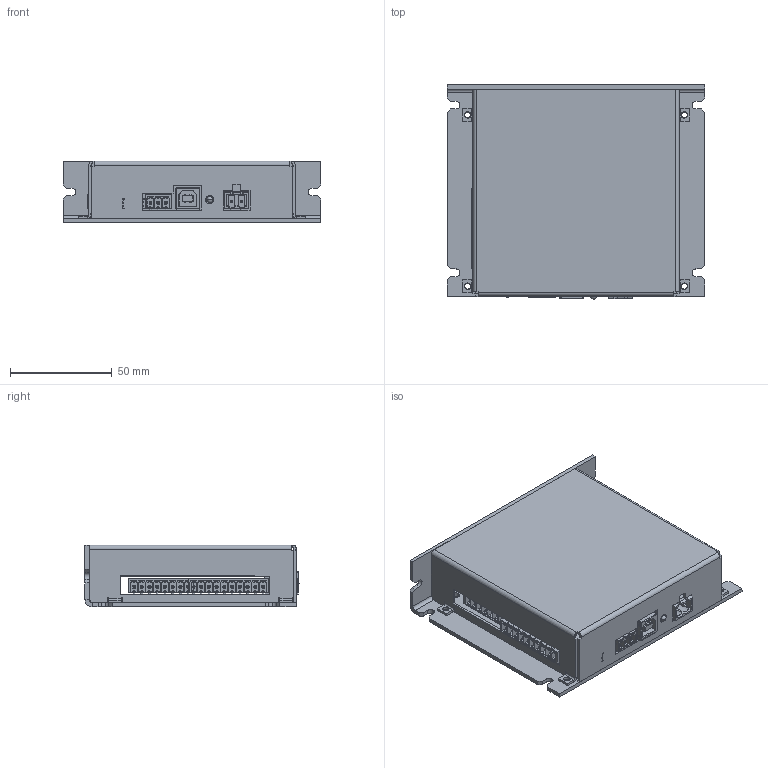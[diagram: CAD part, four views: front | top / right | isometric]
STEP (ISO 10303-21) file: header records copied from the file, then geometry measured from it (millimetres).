
FILE_DESCRIPTION (( 'STEP AP214' ), '1' );
FILE_NAME ('PMX-4CX-SA-external.STEP', '2011-08-01T17:06:37', ( '' ), ( '' ), 'SwSTEP 2.0', 'SolidWorks 2011', '' );
FILE_SCHEMA (( 'AUTOMOTIVE_DESIGN' ));
Length unit declared in the file: inch
Products named in the file (11): PCB-4CX-SA-ASSY(1); mc_1_5-3-g-3_81; mstba_2.5-2-g; SW3dPS-b10b-phdss; mc_1_5-10-g-3_81; mc_1_5-8-g-3_81; SW3dPS-67068-0000-molex; SW3dPS-65-187, LED1x1,Y; PMX-BASE; PMX-4CX-SA-COVER; PMX-4CX-SA-external
Assembly tree (12 placements, depth 3):
  PMX-4CX-SA-external
    PCB-4CX-SA-ASSY(1)
      SW3dPS-65-187, LED1x1,Y
      mc_1_5-8-g-3_81  x2
      mc_1_5-3-g-3_81
      SW3dPS-b10b-phdss
      mc_1_5-10-g-3_81  x2
      mstba_2.5-2-g
      SW3dPS-67068-0000-molex
    PMX-4CX-SA-COVER
    PMX-BASE
Bounding box: 127 x 105.41 x 30.48 mm (x, y, z)
Volume: 62358.4 mm3; surface area: 86040.3 mm2
Topology: 10 solids, 13 shells, 3583 faces, 8948 edges, 5719 vertices
Faces by surface type: plane 2878, cylinder 611, bspline 51, cone 41, sphere 2
Entity records: 92562 total; most frequent: CARTESIAN_POINT 12990, ORIENTED_EDGE 11324, DIRECTION 10939, EDGE_CURVE 5674, LINE 4707, VECTOR 4707, VERTEX_POINT 3649, AXIS2_PLACEMENT_3D 3116
